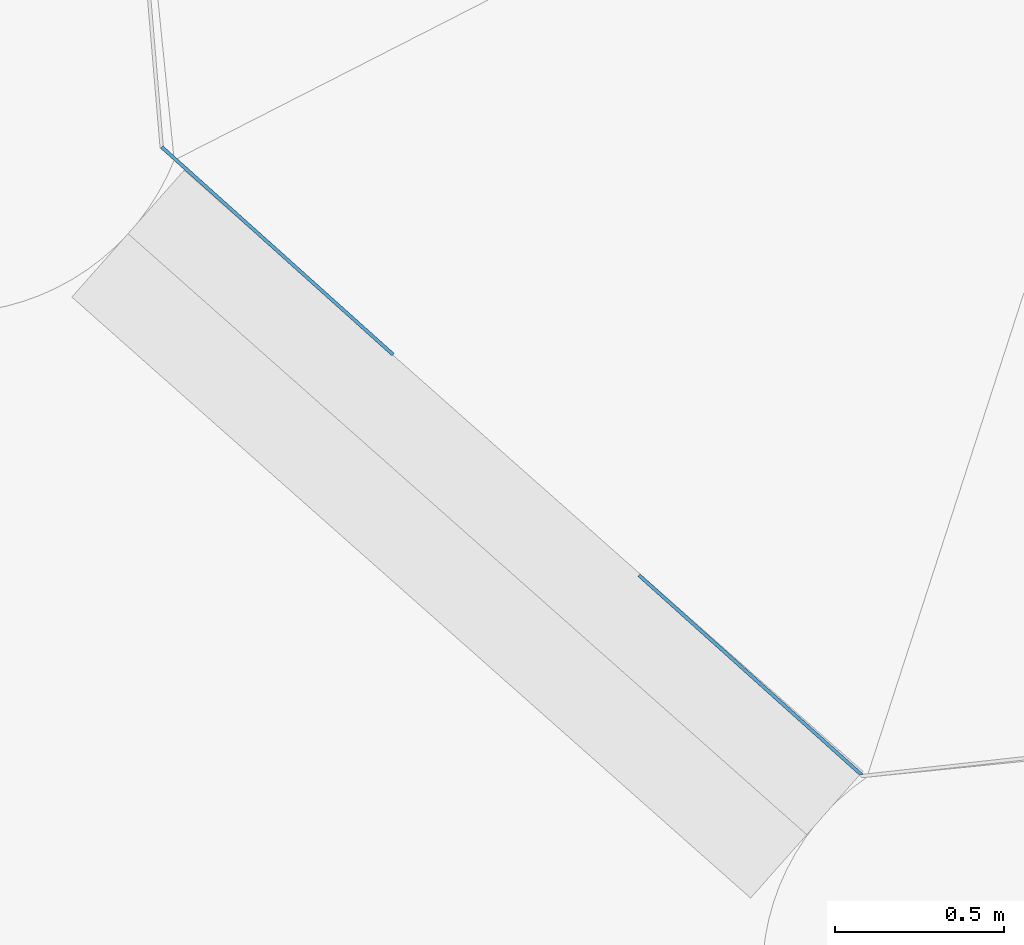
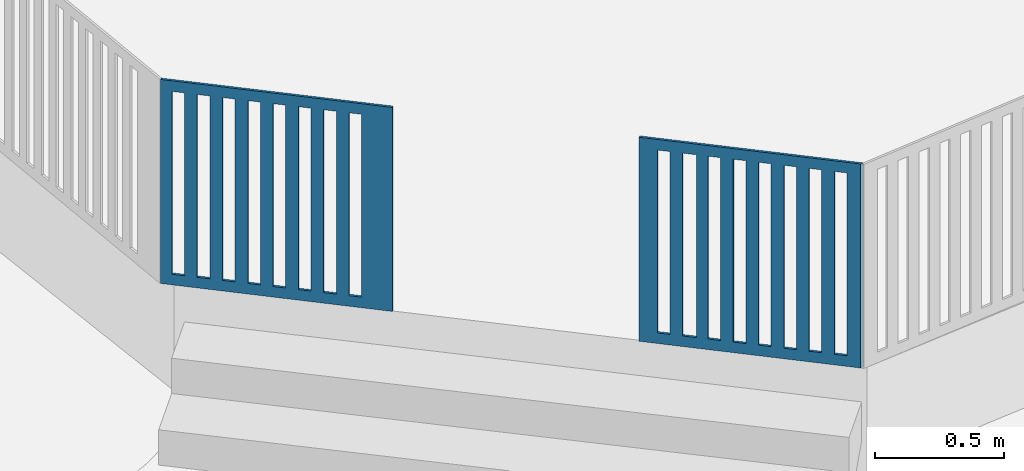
# One storey, part 26 of 75: 2 walls, 16 openings.
"""IFC2X3 building model written with IfcOpenShell, lengths in metres."""

from ifc_helpers import new_model, entity, si_unit, converted_unit, derived_unit, direction, frame, frame_2d, origin, origin_2d_with_axis, place, context, subcontext, project, spatial, polyline, rectangle, outline, extrude, material, layer, layer_set, layer_usage, type_object, element, save


model = new_model("IFC2X3")

# Units and contexts
model_context = context("Model", 3, precision=1e-05, world=origin(), true_north=direction((6.123031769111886e-17, 1.0)))
body_context = subcontext(model_context, "Body", "Model", "MODEL_VIEW")
ifc_project = project(units=[si_unit("LENGTHUNIT", "METRE"), si_unit("AREAUNIT", "SQUARE_METRE"), si_unit("VOLUMEUNIT", "CUBIC_METRE"), converted_unit("PLANEANGLEUNIT", "DEGREE", entity("IfcRatioMeasure", 0.017453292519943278), si_unit("PLANEANGLEUNIT", "RADIAN"), dimensions=[0, 0, 0, 0, 0, 0, 0]), si_unit("MASSUNIT", "GRAM", prefix="KILO"), derived_unit("MASSDENSITYUNIT", [(si_unit("MASSUNIT", "GRAM", prefix="KILO"), 1), (si_unit("LENGTHUNIT", "METRE"), -3)]), derived_unit("IONCONCENTRATIONUNIT", [(si_unit("MASSUNIT", "GRAM", prefix="KILO"), 1), (si_unit("LENGTHUNIT", "METRE"), -3)]), derived_unit("MOMENTOFINERTIAUNIT", [(si_unit("LENGTHUNIT", "METRE"), 4)]), si_unit("TIMEUNIT", "SECOND"), si_unit("FREQUENCYUNIT", "HERTZ"), si_unit("THERMODYNAMICTEMPERATUREUNIT", "DEGREE_CELSIUS"), derived_unit("THERMALTRANSMITTANCEUNIT", [(si_unit("MASSUNIT", "GRAM", prefix="KILO"), 1), (si_unit("THERMODYNAMICTEMPERATUREUNIT", "KELVIN"), -1), (si_unit("TIMEUNIT", "SECOND"), -3)]), derived_unit("THERMALCONDUCTANCEUNIT", [(si_unit("MASSUNIT", "GRAM", prefix="KILO"), 1), (si_unit("THERMODYNAMICTEMPERATUREUNIT", "KELVIN"), -1), (si_unit("TIMEUNIT", "SECOND"), -3), (si_unit("LENGTHUNIT", "METRE"), 1)]), derived_unit("VOLUMETRICFLOWRATEUNIT", [(si_unit("LENGTHUNIT", "METRE"), 3), (si_unit("TIMEUNIT", "SECOND"), -1)]), derived_unit("MASSFLOWRATEUNIT", [(si_unit("MASSUNIT", "GRAM", prefix="KILO"), 1), (si_unit("TIMEUNIT", "SECOND"), -1)]), derived_unit("ROTATIONALFREQUENCYUNIT", [(si_unit("TIMEUNIT", "SECOND"), -1)]), si_unit("ELECTRICCURRENTUNIT", "AMPERE"), si_unit("ELECTRICVOLTAGEUNIT", "VOLT"), si_unit("POWERUNIT", "WATT"), si_unit("FORCEUNIT", "NEWTON", prefix="KILO"), si_unit("ILLUMINANCEUNIT", "LUX"), si_unit("LUMINOUSFLUXUNIT", "LUMEN"), si_unit("LUMINOUSINTENSITYUNIT", "CANDELA"), derived_unit("USERDEFINED", [(si_unit("MASSUNIT", "GRAM", prefix="KILO"), -1), (si_unit("LENGTHUNIT", "METRE"), -2), (si_unit("TIMEUNIT", "SECOND"), 3), (si_unit("LUMINOUSFLUXUNIT", "LUMEN"), 1)]), derived_unit("USERDEFINED", [(si_unit("MASSUNIT", "GRAM", prefix="KILO"), 1), (si_unit("TIMEUNIT", "SECOND"), -3), (si_unit("LENGTHUNIT", "METRE"), 3), (si_unit("ELECTRICCURRENTUNIT", "AMPERE"), -2)]), derived_unit("SOUNDPOWERUNIT", [(si_unit("MASSUNIT", "GRAM", prefix="KILO"), 1), (si_unit("TIMEUNIT", "SECOND"), -3), (si_unit("LENGTHUNIT", "METRE"), 2)]), derived_unit("SOUNDPRESSUREUNIT", [(si_unit("MASSUNIT", "GRAM", prefix="KILO"), 1), (si_unit("LENGTHUNIT", "METRE"), -1), (si_unit("TIMEUNIT", "SECOND"), -2)]), derived_unit("LINEARVELOCITYUNIT", [(si_unit("LENGTHUNIT", "METRE"), 1), (si_unit("TIMEUNIT", "SECOND"), -1)]), si_unit("PRESSUREUNIT", "PASCAL"), derived_unit("USERDEFINED", [(si_unit("MASSUNIT", "GRAM", prefix="KILO"), 1), (si_unit("LENGTHUNIT", "METRE"), -2), (si_unit("TIMEUNIT", "SECOND"), -2)]), derived_unit("LINEARFORCEUNIT", [(si_unit("MASSUNIT", "GRAM", prefix="KILO"), 1), (si_unit("TIMEUNIT", "SECOND"), -2)]), derived_unit("PLANARFORCEUNIT", [(si_unit("MASSUNIT", "GRAM", prefix="KILO"), 1), (si_unit("LENGTHUNIT", "METRE"), -1), (si_unit("TIMEUNIT", "SECOND"), -2)]), derived_unit("SPECIFICHEATCAPACITYUNIT", [(si_unit("THERMODYNAMICTEMPERATUREUNIT", "KELVIN"), -1), (si_unit("LENGTHUNIT", "METRE"), 2), (si_unit("TIMEUNIT", "SECOND"), -2)]), derived_unit("HEATINGVALUEUNIT", [(si_unit("LENGTHUNIT", "METRE"), 2), (si_unit("TIMEUNIT", "SECOND"), -2)]), derived_unit("VAPORPERMEABILITYUNIT", [(si_unit("LENGTHUNIT", "METRE"), -1), (si_unit("TIMEUNIT", "SECOND"), 1)]), derived_unit("DYNAMICVISCOSITYUNIT", [(si_unit("MASSUNIT", "GRAM", prefix="KILO"), 1), (si_unit("TIMEUNIT", "SECOND"), -1), (si_unit("LENGTHUNIT", "METRE"), -1)]), derived_unit("THERMALEXPANSIONCOEFFICIENTUNIT", [(si_unit("THERMODYNAMICTEMPERATUREUNIT", "KELVIN"), -1)]), derived_unit("MODULUSOFELASTICITYUNIT", [(si_unit("MASSUNIT", "GRAM", prefix="KILO"), 1), (si_unit("LENGTHUNIT", "METRE"), -1), (si_unit("TIMEUNIT", "SECOND"), -2)]), derived_unit("ISOTHERMALMOISTURECAPACITYUNIT", [(si_unit("LENGTHUNIT", "METRE"), 3), (si_unit("MASSUNIT", "GRAM", prefix="KILO"), -1)]), derived_unit("MOISTUREDIFFUSIVITYUNIT", [(si_unit("TIMEUNIT", "SECOND"), -1), (si_unit("LENGTHUNIT", "METRE"), 2)])], contexts=[model_context])

# Site, building, storey
site_placement = place(None, origin())
site = spatial("IfcSite", under=ifc_project, at=site_placement, Name="Default", CompositionType="ELEMENT")
building_placement = place(site_placement, origin())
building = spatial("IfcBuilding", under=site, at=building_placement, Name="Projeto", CompositionType="ELEMENT")
storey_placement = place(building_placement, origin())
storey = spatial("IfcBuildingStorey", under=building, at=storey_placement, Name="Nível 1", CompositionType="ELEMENT", Elevation=0.0)

# Wall, openings
ifc_material = material(Name=".ARQ.PIS - CONTRAPISO.ARMADO")
ifc_layer = layer(ifc_material, 0.01)
ifc_layer_set = layer_set([ifc_layer], Name="Parede básica:15cm 2")
ifc_layer_usage = layer_usage(ifc_layer_set, "AXIS2", "POSITIVE", -0.005000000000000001)
wall_type = type_object("IfcWallType", Name="Parede básica:15cm 2", PredefinedType="STANDARD", material=ifc_layer_set)
wall_1_placement = place(storey_placement, frame((17.505280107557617, 29.295264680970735, -2.1000000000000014), z_axis=(0.0, 0.0, 1.0), x_axis=(-0.7444025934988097, 0.6677310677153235, 0.0)))
wall_1 = element("IfcWallStandardCase", 1, at=wall_1_placement, inside=storey, type_object=wall_type, material=ifc_layer_usage, Name="Parede básica:15cm 2", ObjectType="Parede básica:15cm 2", context=body_context, shape_type="SweptSolid", body=[
    extrude(rectangle(XDim=0.010000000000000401, YDim=0.9177653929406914, at=frame_2d((1.4385194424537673e-15, -1.582067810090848e-15), x_axis=(1.0, 0.0))), frame((0.45888269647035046, 0.0, 0.0), z_axis=(0.0, 0.0, 1.0), x_axis=(0.0, 1.0, 0.0)), (0.0, 0.0, 1.0), 0.9640099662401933),
])
opening_1_placement = place(storey_placement, frame((17.505280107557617, 29.295264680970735, -2.1000000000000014), z_axis=(0.0, 0.0, 1.0), x_axis=(-0.7444025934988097, 0.6677310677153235, 0.0)))
element("IfcOpeningElement", 2, at=opening_1_placement, cuts=wall_1, Name="Parede básica:15cm 2:1", ObjectType="Opening", context=body_context, shape_type="SweptSolid", body=[
    extrude(rectangle(XDim=0.8640099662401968, YDim=0.050000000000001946, at=origin_2d_with_axis()), frame((0.2478486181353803, 0.005000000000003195, 0.4820049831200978), z_axis=(0.0, -1.0, 0.0), x_axis=(0.0, 0.0, -1.0)), (0.0, 0.0, 1.0), 0.01000000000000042),
])
opening_2_placement = place(storey_placement, frame((17.505280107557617, 29.295264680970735, -2.1000000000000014), z_axis=(0.0, 0.0, 1.0), x_axis=(-0.7444025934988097, 0.6677310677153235, 0.0)))
element("IfcOpeningElement", 3, at=opening_2_placement, cuts=wall_1, Name="Parede básica:15cm 2:2", ObjectType="Opening", context=body_context, shape_type="SweptSolid", body=[
    extrude(rectangle(XDim=0.864009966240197, YDim=0.049999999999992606, at=frame_2d((-1.3877787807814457e-16, 2.2534057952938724e-15), x_axis=(1.0, 0.0))), frame((0.1478486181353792, 0.005000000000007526, 0.4820049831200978), z_axis=(0.0, -1.0, 0.0), x_axis=(0.0, 0.0, -1.0)), (0.0, 0.0, 1.0), 0.010000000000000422),
])
opening_3_placement = place(storey_placement, frame((17.505280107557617, 29.295264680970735, -2.1000000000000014), z_axis=(0.0, 0.0, 1.0), x_axis=(-0.7444025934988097, 0.6677310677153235, 0.0)))
element("IfcOpeningElement", 4, at=opening_3_placement, cuts=wall_1, Name="Parede básica:15cm 2:3", ObjectType="Opening", context=body_context, shape_type="SweptSolid", body=[
    extrude(rectangle(XDim=0.8640099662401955, YDim=0.05000000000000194, at=frame_2d((5.551115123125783e-17, 8.083811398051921e-16), x_axis=(1.0, 0.0))), frame((0.8478486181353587, 0.005000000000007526, 0.4820049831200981), z_axis=(0.0, -1.0, 0.0), x_axis=(0.0, 0.0, -1.0)), (0.0, 0.0, 1.0), 0.010000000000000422),
])
opening_4_placement = place(storey_placement, frame((17.505280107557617, 29.295264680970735, -2.1000000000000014), z_axis=(0.0, 0.0, 1.0), x_axis=(-0.7444025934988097, 0.6677310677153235, 0.0)))
element("IfcOpeningElement", 5, at=opening_4_placement, cuts=wall_1, Name="Parede básica:15cm 2:4", ObjectType="Opening", context=body_context, shape_type="SweptSolid", body=[
    extrude(rectangle(XDim=0.8640099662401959, YDim=0.049999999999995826, at=frame_2d((-8.326672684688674e-17, 2.2534057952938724e-15), x_axis=(1.0, 0.0))), frame((0.7478486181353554, 0.005000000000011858, 0.4820049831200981), z_axis=(0.0, -1.0, 0.0), x_axis=(0.0, 0.0, -1.0)), (0.0, 0.0, 1.0), 0.01000000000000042),
])
opening_5_placement = place(storey_placement, frame((17.505280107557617, 29.295264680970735, -2.1000000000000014), z_axis=(0.0, 0.0, 1.0), x_axis=(-0.7444025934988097, 0.6677310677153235, 0.0)))
element("IfcOpeningElement", 6, at=opening_5_placement, cuts=wall_1, Name="Parede básica:15cm 2:5", ObjectType="Opening", context=body_context, shape_type="SweptSolid", body=[
    extrude(rectangle(XDim=0.8640099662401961, YDim=0.050000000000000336, at=frame_2d((8.326672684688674e-17, 2.2516710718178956e-15), x_axis=(1.0, 0.0))), frame((0.6478486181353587, 0.005000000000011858, 0.4820049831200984), z_axis=(0.0, -1.0, 0.0), x_axis=(0.0, 0.0, -1.0)), (0.0, 0.0, 1.0), 0.01000000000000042),
])
opening_6_placement = place(storey_placement, frame((17.505280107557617, 29.295264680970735, -2.1000000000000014), z_axis=(0.0, 0.0, 1.0), x_axis=(-0.7444025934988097, 0.6677310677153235, 0.0)))
element("IfcOpeningElement", 7, at=opening_6_placement, cuts=wall_1, Name="Parede básica:15cm 2:6", ObjectType="Opening", context=body_context, shape_type="SweptSolid", body=[
    extrude(rectangle(XDim=0.8640099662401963, YDim=0.049999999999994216, at=frame_2d((-5.551115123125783e-17, -1.4467593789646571e-15), x_axis=(1.0, 0.0))), frame((0.5478486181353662, 0.005000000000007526, 0.4820049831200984), z_axis=(0.0, -1.0, 0.0), x_axis=(0.0, 0.0, -1.0)), (0.0, 0.0, 1.0), 0.010000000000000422),
])
opening_7_placement = place(storey_placement, frame((17.505280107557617, 29.295264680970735, -2.1000000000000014), z_axis=(0.0, 0.0, 1.0), x_axis=(-0.7444025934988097, 0.6677310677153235, 0.0)))
element("IfcOpeningElement", 8, at=opening_7_placement, cuts=wall_1, Name="Parede básica:15cm 2:7", ObjectType="Opening", context=body_context, shape_type="SweptSolid", body=[
    extrude(rectangle(XDim=0.8640099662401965, YDim=0.050000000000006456, at=frame_2d((8.326672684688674e-17, 0.0), x_axis=(1.0, 0.0))), frame((0.44784861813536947, 0.005000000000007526, 0.48200498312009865), z_axis=(0.0, -1.0, 0.0), x_axis=(0.0, 0.0, -1.0)), (0.0, 0.0, 1.0), 0.01000000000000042),
])
opening_8_placement = place(storey_placement, frame((17.505280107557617, 29.295264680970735, -2.1000000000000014), z_axis=(0.0, 0.0, 1.0), x_axis=(-0.7444025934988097, 0.6677310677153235, 0.0)))
element("IfcOpeningElement", 9, at=opening_8_placement, cuts=wall_1, Name="Parede básica:15cm 2:8", ObjectType="Opening", context=body_context, shape_type="SweptSolid", body=[
    extrude(rectangle(XDim=0.8640099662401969, YDim=0.049999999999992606, at=frame_2d((-5.551115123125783e-17, -2.2534057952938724e-15), x_axis=(1.0, 0.0))), frame((0.34784861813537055, 0.005000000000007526, 0.48200498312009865), z_axis=(0.0, -1.0, 0.0), x_axis=(0.0, 0.0, -1.0)), (0.0, 0.0, 1.0), 0.010000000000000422),
])

wall_2_placement = place(storey_placement, frame((18.889906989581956, 28.05325075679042, -2.1000000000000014), z_axis=(0.0, 0.0, 1.0), x_axis=(-0.7444025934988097, 0.6677310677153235, 0.0)))
wall_2 = element("IfcWallStandardCase", 10, at=wall_2_placement, inside=storey, type_object=wall_type, material=ifc_layer_usage, Name="Parede básica:15cm 2", ObjectType="Parede básica:15cm 2", context=body_context, shape_type="SweptSolid", body=[
    extrude(outline(polyline([(-0.005000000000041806, -0.4403079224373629), (0.004999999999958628, -0.4403079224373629), (0.005000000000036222, 0.4358289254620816), (-0.004999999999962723, 0.4447869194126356), (-0.005000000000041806, -0.4403079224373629)])), frame((0.4447869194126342, 0.0, 0.0), z_axis=(0.0, 0.0, 1.0), x_axis=(0.0, 1.0, 0.0)), (0.0, 0.0, 1.0), 0.9640099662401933),
])
opening_9_placement = place(storey_placement, frame((18.889906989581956, 28.05325075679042, -2.1000000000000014), z_axis=(0.0, 0.0, 1.0), x_axis=(-0.7444025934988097, 0.6677310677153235, 0.0)))
element("IfcOpeningElement", 11, at=opening_9_placement, cuts=wall_2, Name="Parede básica:15cm 2:1", ObjectType="Opening", context=body_context, shape_type="SweptSolid", body=[
    extrude(rectangle(XDim=0.864009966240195, YDim=0.04999999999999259, at=frame_2d((8.326672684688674e-17, -3.058317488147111e-15), x_axis=(1.0, 0.0))), frame((0.7878997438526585, 0.004999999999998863, 0.4820049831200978), z_axis=(0.0, -1.0, 0.0), x_axis=(0.0, 0.0, -1.0)), (0.0, 0.0, 1.0), 0.009999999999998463),
])
opening_10_placement = place(storey_placement, frame((18.889906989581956, 28.05325075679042, -2.1000000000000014), z_axis=(0.0, 0.0, 1.0), x_axis=(-0.7444025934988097, 0.6677310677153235, 0.0)))
element("IfcOpeningElement", 12, at=opening_10_placement, cuts=wall_2, Name="Parede básica:15cm 2:2", ObjectType="Opening", context=body_context, shape_type="SweptSolid", body=[
    extrude(rectangle(XDim=0.8640099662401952, YDim=0.05508322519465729, at=frame_2d((-8.326672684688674e-17, 8.066464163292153e-16), x_axis=(1.0, 0.0))), frame((0.685358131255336, 0.004999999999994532, 0.4820049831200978), z_axis=(0.0, -1.0, 0.0), x_axis=(0.0, 0.0, -1.0)), (0.0, 0.0, 1.0), 0.009999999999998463),
])
opening_11_placement = place(storey_placement, frame((18.889906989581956, 28.05325075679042, -2.1000000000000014), z_axis=(0.0, 0.0, 1.0), x_axis=(-0.7444025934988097, 0.6677310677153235, 0.0)))
element("IfcOpeningElement", 13, at=opening_11_placement, cuts=wall_2, Name="Parede básica:15cm 2:3", ObjectType="Opening", context=body_context, shape_type="SweptSolid", body=[
    extrude(rectangle(XDim=0.8640099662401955, YDim=0.04999999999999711, at=frame_2d((5.551115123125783e-17, 1.6115581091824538e-15), x_axis=(1.0, 0.0))), frame((0.5878997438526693, 0.004999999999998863, 0.4820049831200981), z_axis=(0.0, -1.0, 0.0), x_axis=(0.0, 0.0, -1.0)), (0.0, 0.0, 1.0), 0.009999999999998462),
])
opening_12_placement = place(storey_placement, frame((18.889906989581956, 28.05325075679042, -2.1000000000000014), z_axis=(0.0, 0.0, 1.0), x_axis=(-0.7444025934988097, 0.6677310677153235, 0.0)))
element("IfcOpeningElement", 14, at=opening_12_placement, cuts=wall_2, Name="Parede básica:15cm 2:4", ObjectType="Opening", context=body_context, shape_type="SweptSolid", body=[
    extrude(rectangle(XDim=0.8640099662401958, YDim=0.049999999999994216, at=frame_2d((-5.551115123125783e-17, 2.2516710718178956e-15), x_axis=(1.0, 0.0))), frame((0.487899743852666, 0.004999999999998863, 0.4820049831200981), z_axis=(0.0, -1.0, 0.0), x_axis=(0.0, 0.0, -1.0)), (0.0, 0.0, 1.0), 0.009999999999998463),
])
opening_13_placement = place(storey_placement, frame((18.889906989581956, 28.05325075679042, -2.1000000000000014), z_axis=(0.0, 0.0, 1.0), x_axis=(-0.7444025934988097, 0.6677310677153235, 0.0)))
element("IfcOpeningElement", 15, at=opening_13_placement, cuts=wall_2, Name="Parede básica:15cm 2:5", ObjectType="Opening", context=body_context, shape_type="SweptSolid", body=[
    extrude(rectangle(XDim=0.8640099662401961, YDim=0.05000000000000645, at=frame_2d((5.551115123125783e-17, -1.4467593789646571e-15), x_axis=(1.0, 0.0))), frame((0.38789974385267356, 0.004999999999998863, 0.4820049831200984), z_axis=(0.0, -1.0, 0.0), x_axis=(0.0, 0.0, -1.0)), (0.0, 0.0, 1.0), 0.009999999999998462),
])
opening_14_placement = place(storey_placement, frame((18.889906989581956, 28.05325075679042, -2.1000000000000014), z_axis=(0.0, 0.0, 1.0), x_axis=(-0.7444025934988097, 0.6677310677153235, 0.0)))
element("IfcOpeningElement", 16, at=opening_14_placement, cuts=wall_2, Name="Parede básica:15cm 2:6", ObjectType="Opening", context=body_context, shape_type="SweptSolid", body=[
    extrude(rectangle(XDim=0.8640099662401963, YDim=0.04999999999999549, at=frame_2d((-8.326672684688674e-17, -1.4467593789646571e-15), x_axis=(1.0, 0.0))), frame((0.2878997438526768, 0.004999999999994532, 0.4820049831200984), z_axis=(0.0, -1.0, 0.0), x_axis=(0.0, 0.0, -1.0)), (0.0, 0.0, 1.0), 0.009999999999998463),
])
opening_15_placement = place(storey_placement, frame((18.889906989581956, 28.05325075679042, -2.1000000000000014), z_axis=(0.0, 0.0, 1.0), x_axis=(-0.7444025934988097, 0.6677310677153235, 0.0)))
element("IfcOpeningElement", 17, at=opening_15_placement, cuts=wall_2, Name="Parede básica:15cm 2:7", ObjectType="Opening", context=body_context, shape_type="SweptSolid", body=[
    extrude(rectangle(XDim=0.8640099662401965, YDim=0.049999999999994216, at=frame_2d((8.326672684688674e-17, 3.0600522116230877e-15), x_axis=(1.0, 0.0))), frame((0.1878997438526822, 0.004999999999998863, 0.48200498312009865), z_axis=(0.0, -1.0, 0.0), x_axis=(0.0, 0.0, -1.0)), (0.0, 0.0, 1.0), 0.009999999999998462),
])
opening_16_placement = place(storey_placement, frame((18.889906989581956, 28.05325075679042, -2.1000000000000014), z_axis=(0.0, 0.0, 1.0), x_axis=(-0.7444025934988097, 0.6677310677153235, 0.0)))
element("IfcOpeningElement", 18, at=opening_16_placement, cuts=wall_2, Name="Parede básica:15cm 2:8", ObjectType="Opening", context=body_context, shape_type="SweptSolid", body=[
    extrude(rectangle(XDim=0.8640099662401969, YDim=0.049999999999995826, at=frame_2d((-5.551115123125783e-17, -2.2534057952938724e-15), x_axis=(1.0, 0.0))), frame((0.0878997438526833, 0.004999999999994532, 0.48200498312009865), z_axis=(0.0, -1.0, 0.0), x_axis=(0.0, 0.0, -1.0)), (0.0, 0.0, 1.0), 0.009999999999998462),
])

save(model, "model.ifc")
